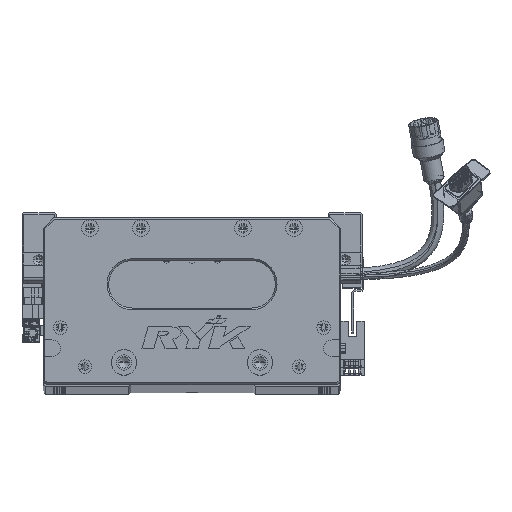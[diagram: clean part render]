
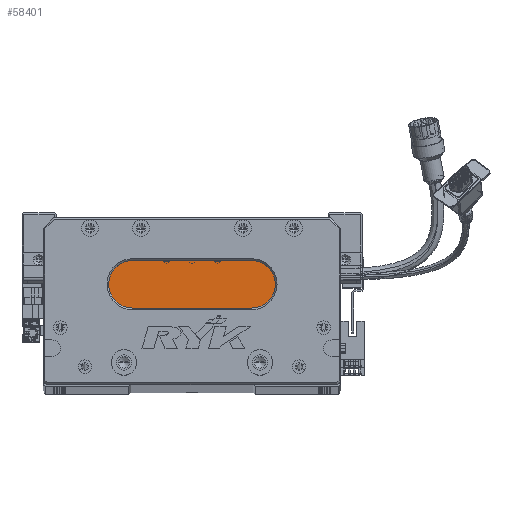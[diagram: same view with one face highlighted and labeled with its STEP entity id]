
A CAD part, top view. The second image highlights one B-rep face of the part: STEP entity #58401.
In plain terms, the highlighted planar face has unit normal (0, 0, 1) as drawn and (0, 0, -1) by its records, which use the part's own axes.
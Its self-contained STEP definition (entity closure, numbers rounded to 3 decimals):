
#1641 = AXIS2_PLACEMENT_3D ( 'NONE', #39011, #18927, #59069 ) ;
#5947 = CARTESIAN_POINT ( 'NONE',  ( 52.5, 73., 18. ) ) ;
#6613 = AXIS2_PLACEMENT_3D ( 'NONE', #92761, #72695, #11666 ) ;
#8105 = CARTESIAN_POINT ( 'NONE',  ( 122.5, 73., 18. ) ) ;
#8470 = CARTESIAN_POINT ( 'NONE',  ( 122.5, 45., 18. ) ) ;
#9105 = CARTESIAN_POINT ( 'NONE',  ( 122.5, 45., 18. ) ) ;
#11666 = DIRECTION ( 'NONE',  ( -1., 0., 0. ) ) ;
#16134 = ORIENTED_EDGE ( 'NONE', *, *, #69867, .T. ) ;
#18927 = DIRECTION ( 'NONE',  ( 0., 0., -1. ) ) ;
#29379 = EDGE_CURVE ( 'NONE', #93733, #35046, #114575, .T. ) ;
#29539 = VERTEX_POINT ( 'NONE', #9105 ) ;
#30464 = EDGE_LOOP ( 'NONE', ( #104849, #66001, #58395, #31378, #16134 ) ) ;
#31378 = ORIENTED_EDGE ( 'NONE', *, *, #29379, .T. ) ;
#34040 = DIRECTION ( 'NONE',  ( -1., 0., 0. ) ) ;
#35046 = VERTEX_POINT ( 'NONE', #5947 ) ;
#36692 = DIRECTION ( 'NONE',  ( -1., 0., 0. ) ) ;
#38739 = DIRECTION ( 'NONE',  ( -1., 0., 0. ) ) ;
#39011 = CARTESIAN_POINT ( 'NONE',  ( 52.5, 59., 18. ) ) ;
#41331 = VECTOR ( 'NONE', #129708, 1000. ) ;
#45608 = DIRECTION ( 'NONE',  ( 0., 0., -1. ) ) ;
#46018 = AXIS2_PLACEMENT_3D ( 'NONE', #128513, #46496, #36692 ) ;
#46496 = DIRECTION ( 'NONE',  ( 0., 0., -1. ) ) ;
#53282 = CIRCLE ( 'NONE', #1641, 14. ) ;
#55356 = CARTESIAN_POINT ( 'NONE',  ( 52.5, 45., 18. ) ) ;
#56256 = FACE_OUTER_BOUND ( 'NONE', #30464, .T. ) ;
#58395 = ORIENTED_EDGE ( 'NONE', *, *, #117430, .T. ) ;
#58401 = ADVANCED_FACE ( 'NONE', ( #56256 ), #123471, .T. ) ;
#59069 = DIRECTION ( 'NONE',  ( -1., 0., 0. ) ) ;
#60420 = CIRCLE ( 'NONE', #84218, 14. ) ;
#62044 = LINE ( 'NONE', #8105, #41331 ) ;
#62484 = VECTOR ( 'NONE', #38739, 1000. ) ;
#66001 = ORIENTED_EDGE ( 'NONE', *, *, #118909, .T. ) ;
#69867 = EDGE_CURVE ( 'NONE', #35046, #102830, #62044, .T. ) ;
#72695 = DIRECTION ( 'NONE',  ( 0., 0., -1. ) ) ;
#84218 = AXIS2_PLACEMENT_3D ( 'NONE', #85777, #45608, #34040 ) ;
#84855 = LINE ( 'NONE', #8470, #62484 ) ;
#85777 = CARTESIAN_POINT ( 'NONE',  ( 122.5, 59., 18. ) ) ;
#92761 = CARTESIAN_POINT ( 'NONE',  ( 122.5, 59., 18. ) ) ;
#93733 = VERTEX_POINT ( 'NONE', #126251 ) ;
#102830 = VERTEX_POINT ( 'NONE', #125681 ) ;
#104849 = ORIENTED_EDGE ( 'NONE', *, *, #123989, .T. ) ;
#114575 = CIRCLE ( 'NONE', #46018, 14. ) ;
#115078 = VERTEX_POINT ( 'NONE', #55356 ) ;
#117430 = EDGE_CURVE ( 'NONE', #115078, #93733, #53282, .T. ) ;
#118909 = EDGE_CURVE ( 'NONE', #29539, #115078, #84855, .T. ) ;
#123471 = PLANE ( 'NONE',  #6613 ) ;
#123989 = EDGE_CURVE ( 'NONE', #102830, #29539, #60420, .T. ) ;
#125681 = CARTESIAN_POINT ( 'NONE',  ( 122.5, 73., 18. ) ) ;
#126251 = CARTESIAN_POINT ( 'NONE',  ( 38.5, 59., 18. ) ) ;
#128513 = CARTESIAN_POINT ( 'NONE',  ( 52.5, 59., 18. ) ) ;
#129708 = DIRECTION ( 'NONE',  ( 1., 0., 0. ) ) ;
